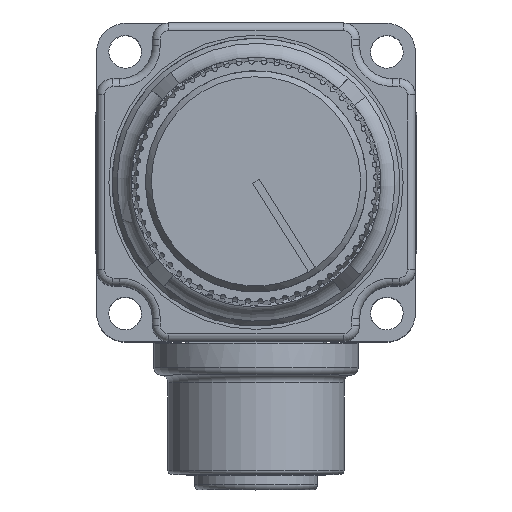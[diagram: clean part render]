
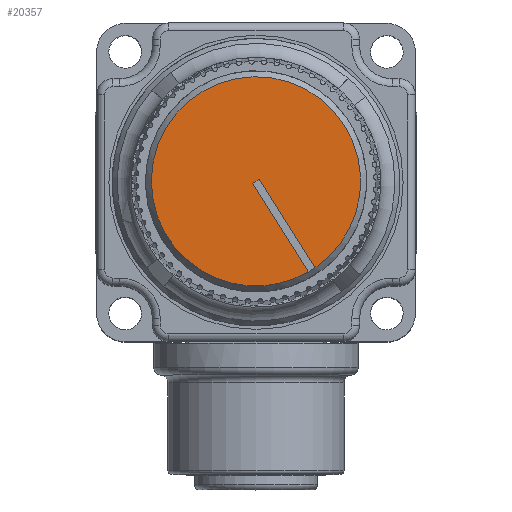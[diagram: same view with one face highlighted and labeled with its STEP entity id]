
A CAD part, top view. The second image highlights one B-rep face of the part: STEP entity #20357.
In plain terms, the highlighted planar face has unit normal (0, 0, 1).
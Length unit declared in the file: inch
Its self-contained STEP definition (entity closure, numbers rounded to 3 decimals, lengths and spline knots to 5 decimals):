
#2201=LINE('',#39607,#3603);
#2206=LINE('',#39626,#3608);
#2209=LINE('',#39631,#3611);
#3603=VECTOR('',#27038,0.3937);
#3608=VECTOR('',#27049,0.3937);
#3611=VECTOR('',#27054,0.3937);
#4945=FACE_OUTER_BOUND('',#6161,.T.);
#6161=EDGE_LOOP('',(#16537,#16538,#16539,#16540,#16541));
#7048=CIRCLE('',#22257,0.4);
#7049=CIRCLE('',#22258,0.4);
#8793=VERTEX_POINT('',#39605);
#8794=VERTEX_POINT('',#39606);
#8797=VERTEX_POINT('',#39619);
#8799=VERTEX_POINT('',#39625);
#8801=VERTEX_POINT('',#39635);
#11419=EDGE_CURVE('',#8793,#8794,#2201,.T.);
#11426=EDGE_CURVE('',#8799,#8797,#2206,.T.);
#11429=EDGE_CURVE('',#8794,#8799,#2209,.T.);
#11431=EDGE_CURVE('',#8797,#8801,#7048,.T.);
#11432=EDGE_CURVE('',#8801,#8793,#7049,.T.);
#16537=ORIENTED_EDGE('',*,*,#11426,.T.);
#16538=ORIENTED_EDGE('',*,*,#11431,.T.);
#16539=ORIENTED_EDGE('',*,*,#11432,.T.);
#16540=ORIENTED_EDGE('',*,*,#11419,.T.);
#16541=ORIENTED_EDGE('',*,*,#11429,.T.);
#18260=PLANE('',#22261);
#20357=ADVANCED_FACE('',(#4945),#18260,.T.);
#22257=AXIS2_PLACEMENT_3D('',#39636,#27060,#27061);
#22258=AXIS2_PLACEMENT_3D('',#39637,#27062,#27063);
#22261=AXIS2_PLACEMENT_3D('',#39643,#27069,#27070);
#27038=DIRECTION('',(-0.532,0.847,0.));
#27049=DIRECTION('',(0.532,-0.847,0.));
#27054=DIRECTION('',(0.847,0.532,0.));
#27060=DIRECTION('center_axis',(0.,0.,1.));
#27061=DIRECTION('ref_axis',(0.847,0.532,0.));
#27062=DIRECTION('center_axis',(0.,0.,1.));
#27063=DIRECTION('ref_axis',(0.847,0.532,0.));
#27069=DIRECTION('center_axis',(0.,0.,1.));
#27070=DIRECTION('ref_axis',(1.,0.,0.));
#39605=CARTESIAN_POINT('',(-0.21639,-0.28355,1.8705));
#39606=CARTESIAN_POINT('',(-0.42888,0.05501,1.8705));
#39607=CARTESIAN_POINT('',(-0.21639,-0.28355,1.8705));
#39619=CARTESIAN_POINT('',(-0.19098,-0.2676,1.8705));
#39625=CARTESIAN_POINT('',(-0.40347,0.07096,1.8705));
#39626=CARTESIAN_POINT('',(-0.40347,0.07096,1.8705));
#39631=CARTESIAN_POINT('',(-0.42888,0.05501,1.8705));
#39635=CARTESIAN_POINT('',(-0.56833,-0.30695,1.8705));
#39636=CARTESIAN_POINT('Origin',(-0.41618,0.06298,
1.8705));
#39637=CARTESIAN_POINT('Origin',(-0.41618,0.06298,
1.8705));
#39643=CARTESIAN_POINT('Origin',(-0.76495,-0.15285,
1.8705));
